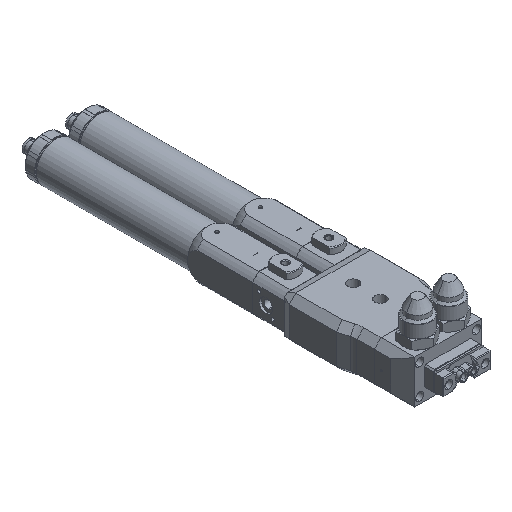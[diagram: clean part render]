
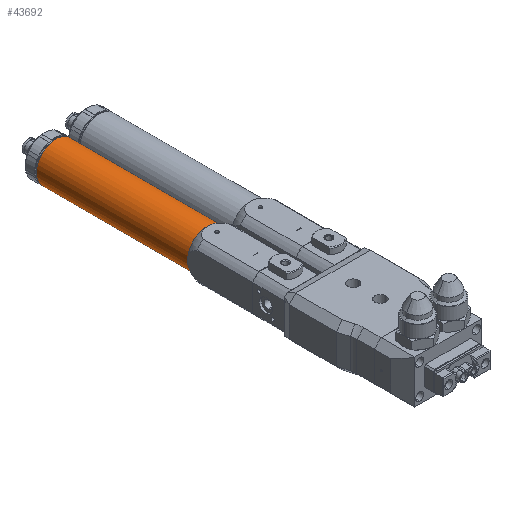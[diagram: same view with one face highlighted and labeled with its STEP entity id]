
A CAD part, isometric view. The second image highlights one B-rep face of the part: STEP entity #43692.
In plain terms, the highlighted cylindrical face has radius 14.5 mm (diameter 29 mm), a full revolution.
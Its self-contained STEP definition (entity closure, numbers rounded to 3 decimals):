
#1494 = AXIS2_PLACEMENT_3D ( 'NONE', #28105, #20319, #6223 ) ;
#2277 = VERTEX_POINT ( 'NONE', #47460 ) ;
#2330 = ORIENTED_EDGE ( 'NONE', *, *, #32979, .T. ) ;
#2693 = CARTESIAN_POINT ( 'NONE',  ( -16.989, 27.249, 998.603 ) ) ;
#3658 = DIRECTION ( 'NONE',  ( 0., 0., -1. ) ) ;
#4109 = DIRECTION ( 'NONE',  ( 0., -1., 0. ) ) ;
#4160 = CYLINDRICAL_SURFACE ( 'NONE', #23113, 14.5 ) ;
#4446 = VERTEX_POINT ( 'NONE', #47040 ) ;
#6223 = DIRECTION ( 'NONE',  ( 0., 0., -1. ) ) ;
#7102 = AXIS2_PLACEMENT_3D ( 'NONE', #2693, #32602, #3658 ) ;
#7666 = AXIS2_PLACEMENT_3D ( 'NONE', #21501, #32425, #21990 ) ;
#8633 = ORIENTED_EDGE ( 'NONE', *, *, #18868, .T. ) ;
#10145 = CARTESIAN_POINT ( 'NONE',  ( -16.989, 27.249, 998.603 ) ) ;
#11597 = CARTESIAN_POINT ( 'NONE',  ( -16.989, 27.249, 998.603 ) ) ;
#12272 = CIRCLE ( 'NONE', #44168, 14.5 ) ;
#12580 = VERTEX_POINT ( 'NONE', #26770 ) ;
#13085 = CIRCLE ( 'NONE', #7666, 14.5 ) ;
#13696 = FACE_OUTER_BOUND ( 'NONE', #31970, .T. ) ;
#14769 = DIRECTION ( 'NONE',  ( 0., 0., -1. ) ) ;
#15311 = DIRECTION ( 'NONE',  ( 0., -1., 0. ) ) ;
#16069 = CIRCLE ( 'NONE', #44106, 14.5 ) ;
#17924 = DIRECTION ( 'NONE',  ( 0., 1., 0. ) ) ;
#18868 = EDGE_CURVE ( 'NONE', #12580, #4446, #39706, .T. ) ;
#18927 = DIRECTION ( 'NONE',  ( 0., 0., -1. ) ) ;
#20319 = DIRECTION ( 'NONE',  ( 0., 1., 0. ) ) ;
#21147 = CARTESIAN_POINT ( 'NONE',  ( -16.989, 139.049, 984.103 ) ) ;
#21501 = CARTESIAN_POINT ( 'NONE',  ( -16.989, 139.049, 998.603 ) ) ;
#21990 = DIRECTION ( 'NONE',  ( 0., 0., -1. ) ) ;
#23113 = AXIS2_PLACEMENT_3D ( 'NONE', #25813, #15311, #33811 ) ;
#25624 = EDGE_CURVE ( 'NONE', #2277, #30345, #43479, .T. ) ;
#25813 = CARTESIAN_POINT ( 'NONE',  ( -16.989, 23.312, 998.603 ) ) ;
#26437 = DIRECTION ( 'NONE',  ( 0., 1., 0. ) ) ;
#26647 = EDGE_LOOP ( 'NONE', ( #29874, #2330 ) ) ;
#26770 = CARTESIAN_POINT ( 'NONE',  ( -16.989, 27.249, 984.103 ) ) ;
#27828 = AXIS2_PLACEMENT_3D ( 'NONE', #10145, #17924, #32765 ) ;
#28002 = ORIENTED_EDGE ( 'NONE', *, *, #25624, .T. ) ;
#28105 = CARTESIAN_POINT ( 'NONE',  ( -16.989, 27.249, 998.603 ) ) ;
#28228 = EDGE_CURVE ( 'NONE', #4446, #2277, #16069, .T. ) ;
#28671 = CARTESIAN_POINT ( 'NONE',  ( -2.489, 27.249, 998.603 ) ) ;
#29874 = ORIENTED_EDGE ( 'NONE', *, *, #38964, .T. ) ;
#30345 = VERTEX_POINT ( 'NONE', #28671 ) ;
#31970 = EDGE_LOOP ( 'NONE', ( #40005, #8633, #32082, #28002 ) ) ;
#32082 = ORIENTED_EDGE ( 'NONE', *, *, #28228, .T. ) ;
#32425 = DIRECTION ( 'NONE',  ( 0., -1., 0. ) ) ;
#32602 = DIRECTION ( 'NONE',  ( 0., 1., 0. ) ) ;
#32765 = DIRECTION ( 'NONE',  ( 0., 0., -1. ) ) ;
#32979 = EDGE_CURVE ( 'NONE', #44297, #40963, #12272, .T. ) ;
#33811 = DIRECTION ( 'NONE',  ( 0., 0., -1. ) ) ;
#38964 = EDGE_CURVE ( 'NONE', #40963, #44297, #13085, .T. ) ;
#39706 = CIRCLE ( 'NONE', #7102, 14.5 ) ;
#40005 = ORIENTED_EDGE ( 'NONE', *, *, #44780, .T. ) ;
#40963 = VERTEX_POINT ( 'NONE', #44149 ) ;
#43384 = CIRCLE ( 'NONE', #27828, 14.5 ) ;
#43479 = CIRCLE ( 'NONE', #1494, 14.5 ) ;
#43692 = ADVANCED_FACE ( 'NONE', ( #13696, #44322 ), #4160, .T. ) ;
#44106 = AXIS2_PLACEMENT_3D ( 'NONE', #11597, #26437, #14769 ) ;
#44149 = CARTESIAN_POINT ( 'NONE',  ( -16.989, 139.049, 1013.103 ) ) ;
#44168 = AXIS2_PLACEMENT_3D ( 'NONE', #44503, #4109, #18927 ) ;
#44297 = VERTEX_POINT ( 'NONE', #21147 ) ;
#44322 = FACE_OUTER_BOUND ( 'NONE', #26647, .T. ) ;
#44503 = CARTESIAN_POINT ( 'NONE',  ( -16.989, 139.049, 998.603 ) ) ;
#44780 = EDGE_CURVE ( 'NONE', #30345, #12580, #43384, .T. ) ;
#47040 = CARTESIAN_POINT ( 'NONE',  ( -31.489, 27.249, 998.603 ) ) ;
#47460 = CARTESIAN_POINT ( 'NONE',  ( -16.989, 27.249, 1013.103 ) ) ;
